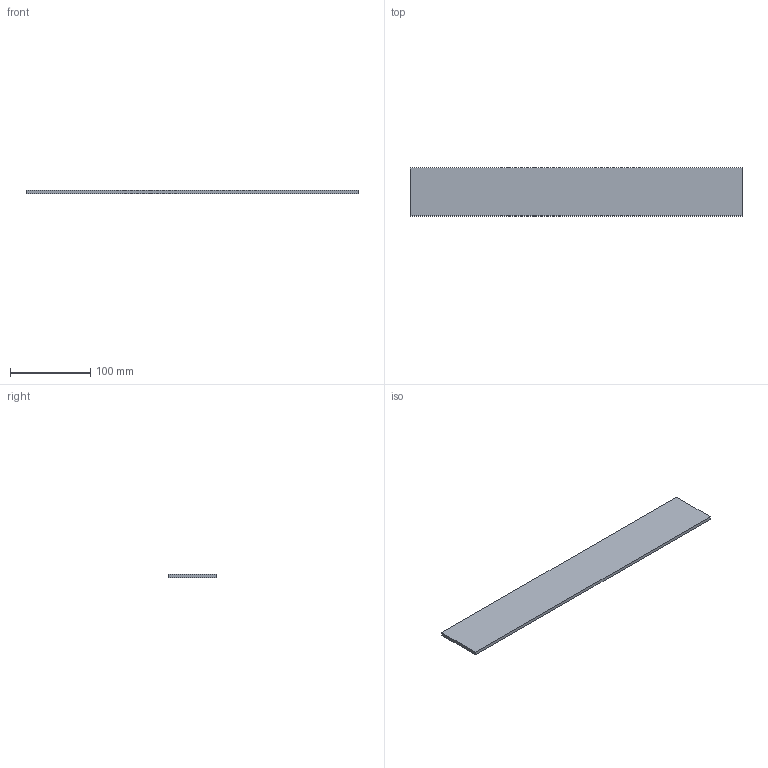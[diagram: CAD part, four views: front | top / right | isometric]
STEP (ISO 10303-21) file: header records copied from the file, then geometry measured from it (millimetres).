
FILE_DESCRIPTION (( 'STEP AP214' ), '1' );
FILE_NAME ('_Variowing Glasdekor NL450.step', '2010-07-14T13:33:37', ( 'grass' ), ( '' ), 'SwSTEP 2.0', 'SolidWorks 2010', '' );
FILE_SCHEMA (( 'AUTOMOTIVE_DESIGN' ));
Length unit declared in the file: millimetre
Products named in the file (1): _Variowing Glasdekor NL450
Bounding box: 415 x 60 x 4 mm (x, y, z)
Volume: 99600 mm3; surface area: 53600 mm2
Topology: 1 solids, 1 shells, 6 faces, 12 edges, 8 vertices
Faces by surface type: plane 6
Entity records: 190 total; most frequent: CARTESIAN_POINT 27, DIRECTION 26, ORIENTED_EDGE 24, LINE 12, VECTOR 12, EDGE_CURVE 12, VERTEX_POINT 8, AXIS2_PLACEMENT_3D 7
